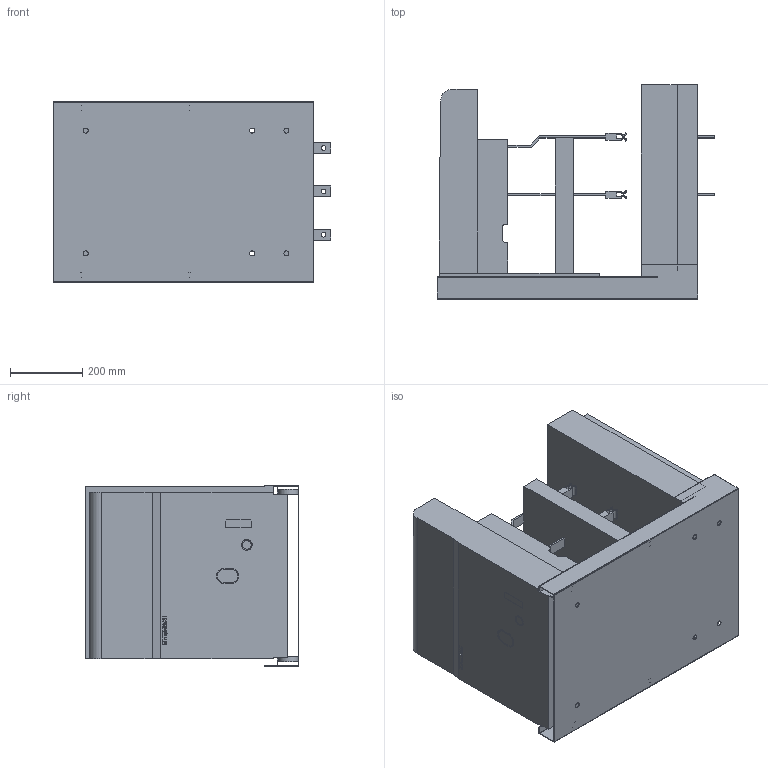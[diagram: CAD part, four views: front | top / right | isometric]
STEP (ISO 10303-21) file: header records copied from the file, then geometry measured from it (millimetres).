
FILE_DESCRIPTION(('STEP AP214'), '1');
FILE_NAME('Âûäâèæíîå èñïîëíåíèå 3,6_7,2êÂ, êîðçèíà êëàññà E_F (B1)', '2015-11-23T06:37:49', ('Testing'), (''), 'ASCON STEP Converter 1.3', 'ASCON Math Kernel', '');
FILE_SCHEMA(('AUTOMOTIVE_DESIGN { 1 0 10303 214 3 1 1}'));
Length unit declared in the file: millimetre
Bounding box: 767.57 x 591.84 x 500.01 mm (x, y, z)
Volume: 91292103.1 mm3; surface area: 3438416.1 mm2
Topology: 2 solids, 2 shells, 375 faces, 1027 edges, 676 vertices
Faces by surface type: plane 290, cylinder 59, extrusion 26
Full cylindrical faces by diameter (mm): 13 x6, 14 x6, 24 x1, 30 x1, 54 x4
Entity records: 11798 total; most frequent: CARTESIAN_POINT 2217, ORIENTED_EDGE 2018, DIRECTION 1810, EDGE_CURVE 1009, VECTOR 856, LINE 830, VERTEX_POINT 676, AXIS2_PLACEMENT_3D 477
